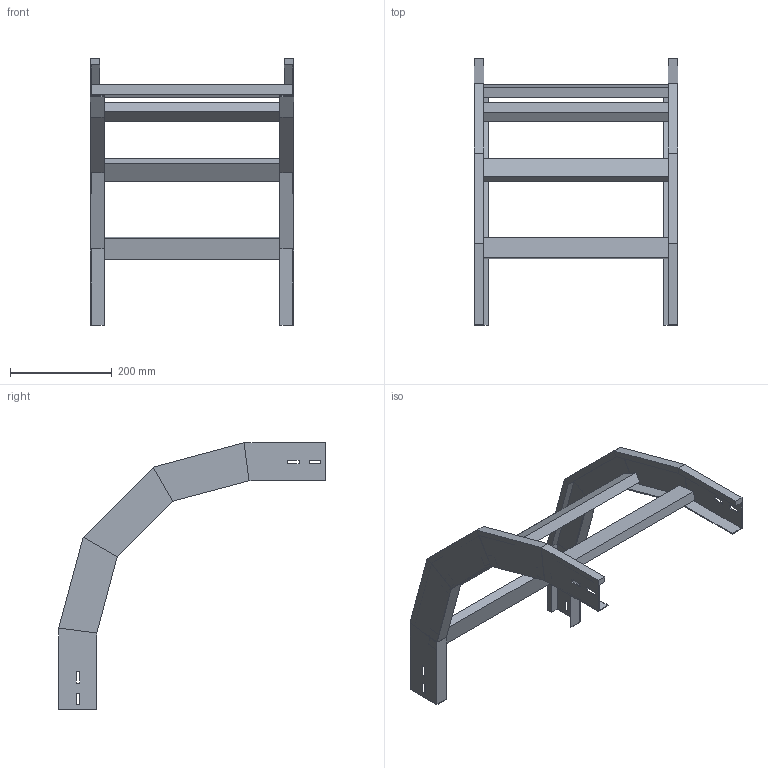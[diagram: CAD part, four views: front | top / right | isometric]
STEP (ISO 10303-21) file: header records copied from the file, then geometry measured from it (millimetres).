
FILE_DESCRIPTION (( 'STEP AP214' ), '1' );
FILE_NAME ('A2_33B3C400.step', '2025-02-21T15:05:31', ( '' ), ( '' ), 'SwSTEP 2.0', 'SolidWorks 2023', '' );
FILE_SCHEMA (( 'AUTOMOTIVE_DESIGN' ));
Length unit declared in the file: millimetre
Products named in the file (3): LONGH.DISCESA_90°_H75_R300; TRAVERSINO_400; A2_33B3C400
Assembly tree (6 placements, depth 2):
  A2_33B3C400
    LONGH.DISCESA_90°_H75_R300  x2
    TRAVERSINO_400  x4
Bounding box: 400 x 524.44 x 524.44 mm (x, y, z)
Volume: 1940829.3 mm3; surface area: 584936 mm2
Topology: 6 solids, 6 shells, 140 faces, 320 edges, 192 vertices
Faces by surface type: plane 140
Entity records: 1872 total; most frequent: CARTESIAN_POINT 309, ORIENTED_EDGE 296, DIRECTION 294, EDGE_CURVE 148, LINE 148, VECTOR 148, VERTEX_POINT 88, AXIS2_PLACEMENT_3D 73
